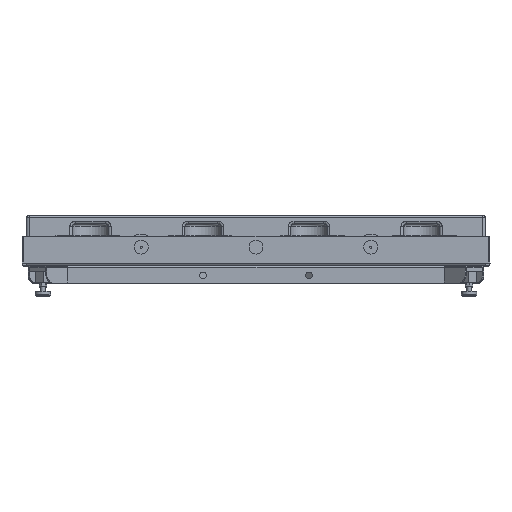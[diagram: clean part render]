
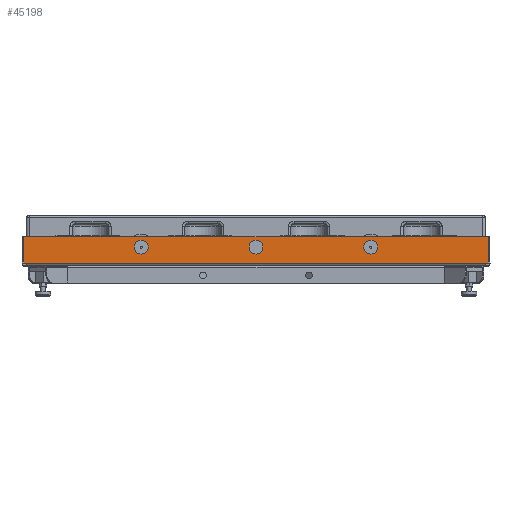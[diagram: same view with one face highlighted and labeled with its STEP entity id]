
A CAD part, top view. The second image highlights one B-rep face of the part: STEP entity #45198.
In plain terms, the highlighted planar face has unit normal (0, 0, 1).
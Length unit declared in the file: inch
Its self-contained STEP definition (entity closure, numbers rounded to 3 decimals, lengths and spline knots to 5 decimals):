
#4173 = ORIENTED_EDGE ( 'NONE', *, *, #67176, .F. ) ;
#6015 = AXIS2_PLACEMENT_3D ( 'NONE', #38418, #6284, #20518 ) ;
#6284 = DIRECTION ( 'NONE',  ( 0., 0., 1. ) ) ;
#6827 = DIRECTION ( 'NONE',  ( 1., 0., 0. ) ) ;
#7941 = DIRECTION ( 'NONE',  ( 1., 0., 0. ) ) ;
#8088 = DIRECTION ( 'NONE',  ( 1., 0., 0. ) ) ;
#9274 = DIRECTION ( 'NONE',  ( 0., 0., 1. ) ) ;
#11688 = CARTESIAN_POINT ( 'NONE',  ( -26.30493, 0.075, 26.5 ) ) ;
#11864 = CIRCLE ( 'NONE', #30279, 0.79 ) ;
#12304 = ORIENTED_EDGE ( 'NONE', *, *, #48831, .F. ) ;
#12691 = LINE ( 'NONE', #24932, #56193 ) ;
#12961 = EDGE_CURVE ( 'NONE', #51269, #22015, #61823, .T. ) ;
#13871 = CARTESIAN_POINT ( 'NONE',  ( 26.00107, 0.075, 26.5 ) ) ;
#16598 = VECTOR ( 'NONE', #25281, 39.37008 ) ;
#16694 = ORIENTED_EDGE ( 'NONE', *, *, #28542, .F. ) ;
#19908 = ORIENTED_EDGE ( 'NONE', *, *, #42551, .F. ) ;
#20518 = DIRECTION ( 'NONE',  ( 1., 0., 0. ) ) ;
#21182 = EDGE_LOOP ( 'NONE', ( #12304 ) ) ;
#22015 = VERTEX_POINT ( 'NONE', #13871 ) ;
#24932 = CARTESIAN_POINT ( 'NONE',  ( 26.5, 3.062, 26.5 ) ) ;
#24933 = CARTESIAN_POINT ( 'NONE',  ( 26.30493, 0.075, 26.5 ) ) ;
#25281 = DIRECTION ( 'NONE',  ( 0., -1., 0. ) ) ;
#25657 = CIRCLE ( 'NONE', #6015, 0.79 ) ;
#26251 = DIRECTION ( 'NONE',  ( 0., -1., 0. ) ) ;
#26548 = CARTESIAN_POINT ( 'NONE',  ( -26.30493, 3.062, 26.5 ) ) ;
#28408 = ORIENTED_EDGE ( 'NONE', *, *, #12961, .T. ) ;
#28542 = EDGE_CURVE ( 'NONE', #53836, #22015, #55247, .T. ) ;
#30279 = AXIS2_PLACEMENT_3D ( 'NONE', #63438, #57663, #8088 ) ;
#30686 = LINE ( 'NONE', #58603, #16598 ) ;
#31331 = ORIENTED_EDGE ( 'NONE', *, *, #49953, .T. ) ;
#31617 = DIRECTION ( 'NONE',  ( 1., 0., 0. ) ) ;
#32557 = CARTESIAN_POINT ( 'NONE',  ( -12.21, 1.875, 26.5 ) ) ;
#33710 = CARTESIAN_POINT ( 'NONE',  ( -26.00107, 0.075, 26.5 ) ) ;
#37951 = EDGE_CURVE ( 'NONE', #41425, #51269, #43088, .T. ) ;
#38418 = CARTESIAN_POINT ( 'NONE',  ( 13., 1.875, 26.5 ) ) ;
#41425 = VERTEX_POINT ( 'NONE', #11688 ) ;
#41962 = VERTEX_POINT ( 'NONE', #69086 ) ;
#42527 = FACE_BOUND ( 'NONE', #53443, .T. ) ;
#42551 = EDGE_CURVE ( 'NONE', #66209, #41962, #12691, .T. ) ;
#43088 = LINE ( 'NONE', #48887, #47378 ) ;
#44202 = LINE ( 'NONE', #60905, #46536 ) ;
#44565 = DIRECTION ( 'NONE',  ( 0., -1., 0. ) ) ;
#45198 = ADVANCED_FACE ( 'NONE', ( #70441, #63920, #42527, #63206 ), #53401, .T. ) ;
#46406 = VECTOR ( 'NONE', #49851, 39.37008 ) ;
#46445 = CIRCLE ( 'NONE', #59284, 0.79 ) ;
#46536 = VECTOR ( 'NONE', #44565, 39.37008 ) ;
#47008 = VECTOR ( 'NONE', #61051, 39.37008 ) ;
#47378 = VECTOR ( 'NONE', #6827, 39.37008 ) ;
#47918 = DIRECTION ( 'NONE',  ( 0., 0., 1. ) ) ;
#48831 = EDGE_CURVE ( 'NONE', #68968, #68968, #11864, .T. ) ;
#48887 = CARTESIAN_POINT ( 'NONE',  ( 0., 0.075, 26.5 ) ) ;
#49851 = DIRECTION ( 'NONE',  ( 1., 0., 0. ) ) ;
#49953 = EDGE_CURVE ( 'NONE', #66209, #41425, #44202, .T. ) ;
#50002 = EDGE_CURVE ( 'NONE', #41962, #53836, #30686, .T. ) ;
#50095 = ORIENTED_EDGE ( 'NONE', *, *, #37951, .T. ) ;
#50779 = AXIS2_PLACEMENT_3D ( 'NONE', #59210, #9274, #26251 ) ;
#51269 = VERTEX_POINT ( 'NONE', #33710 ) ;
#53401 = PLANE ( 'NONE',  #50779 ) ;
#53443 = EDGE_LOOP ( 'NONE', ( #4173 ) ) ;
#53836 = VERTEX_POINT ( 'NONE', #24933 ) ;
#55247 = LINE ( 'NONE', #60690, #47008 ) ;
#56156 = VERTEX_POINT ( 'NONE', #61939 ) ;
#56193 = VECTOR ( 'NONE', #7941, 39.37008 ) ;
#56477 = EDGE_CURVE ( 'NONE', #56156, #56156, #25657, .T. ) ;
#57663 = DIRECTION ( 'NONE',  ( 0., 0., 1. ) ) ;
#58200 = EDGE_LOOP ( 'NONE', ( #59542 ) ) ;
#58603 = CARTESIAN_POINT ( 'NONE',  ( 26.30493, 0., 26.5 ) ) ;
#59210 = CARTESIAN_POINT ( 'NONE',  ( 0., 0., 26.5 ) ) ;
#59284 = AXIS2_PLACEMENT_3D ( 'NONE', #70413, #47918, #31617 ) ;
#59542 = ORIENTED_EDGE ( 'NONE', *, *, #56477, .F. ) ;
#60581 = EDGE_LOOP ( 'NONE', ( #65109, #19908, #31331, #50095, #28408, #16694 ) ) ;
#60690 = CARTESIAN_POINT ( 'NONE',  ( 26.00107, 0.075, 26.5 ) ) ;
#60905 = CARTESIAN_POINT ( 'NONE',  ( -26.30493, 0., 26.5 ) ) ;
#61051 = DIRECTION ( 'NONE',  ( -1., 0., 0. ) ) ;
#61823 = LINE ( 'NONE', #71252, #46406 ) ;
#61939 = CARTESIAN_POINT ( 'NONE',  ( 13.79, 1.875, 26.5 ) ) ;
#62295 = VERTEX_POINT ( 'NONE', #62634 ) ;
#62634 = CARTESIAN_POINT ( 'NONE',  ( 0.79, 1.875, 26.5 ) ) ;
#63206 = FACE_OUTER_BOUND ( 'NONE', #60581, .T. ) ;
#63438 = CARTESIAN_POINT ( 'NONE',  ( -13., 1.875, 26.5 ) ) ;
#63920 = FACE_BOUND ( 'NONE', #21182, .T. ) ;
#65109 = ORIENTED_EDGE ( 'NONE', *, *, #50002, .F. ) ;
#66209 = VERTEX_POINT ( 'NONE', #26548 ) ;
#67176 = EDGE_CURVE ( 'NONE', #62295, #62295, #46445, .T. ) ;
#68968 = VERTEX_POINT ( 'NONE', #32557 ) ;
#69086 = CARTESIAN_POINT ( 'NONE',  ( 26.30493, 3.062, 26.5 ) ) ;
#70413 = CARTESIAN_POINT ( 'NONE',  ( 0., 1.875, 26.5 ) ) ;
#70441 = FACE_BOUND ( 'NONE', #58200, .T. ) ;
#71252 = CARTESIAN_POINT ( 'NONE',  ( 0., 0.075, 26.5 ) ) ;
